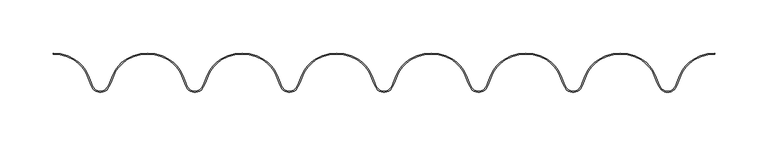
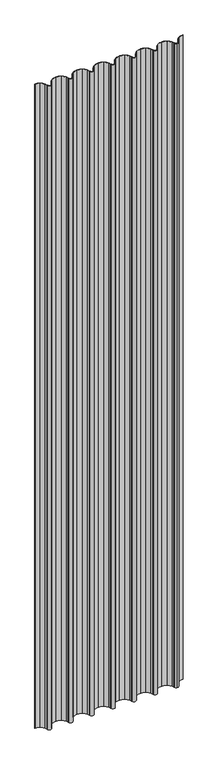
"""IFC4 building model written with IfcOpenShell, lengths in millimetres: plate geometry, Regolare Vertical 623 : Regolare Vertical 623."""

from ifc_helpers import new_model, si_unit, point, frame_2d, origin, origin_with_axes, place, context, project, spatial, polyline, circle_curve, trimmed, segment, composite_curve, outline, extrude, source, transform, mapped, element, save


def plate_9b340332(model_context):
    return source(origin(), model_context, "Body", "SweptSolid", [
        extrude(outline(composite_curve([segment(trimmed(circle_curve(frame_2d((308.1145665, -32.6206681)), 30.6166783), [point((292.1394616, -6.5021495))], [point((279.6874767, -21.2504634))], True, "CARTESIAN"), True, "CONTINUOUS"), segment(polyline([(279.6874767, -21.2504634), (276.8058908, -28.4448583), (275.1452661, -31.9093405)]), True, "CONTINUOUS"), segment(trimmed(circle_curve(frame_2d((267.1544672, -28.0791236)), 8.8613445), [point((275.1452661, -31.9093405))], [point((267.1544672, -36.9404682))], False, "CARTESIAN"), True, "CONTINUOUS"), segment(trimmed(circle_curve(frame_2d((267.1544672, -28.0791236)), 8.8613445), [point((267.1544672, -36.9404682))], [point((259.1636684, -31.9093405))], False, "CARTESIAN"), True, "CONTINUOUS"), segment(polyline([(259.1636684, -31.9093405), (257.5030437, -28.4448583), (254.6214578, -21.2504634)]), True, "CONTINUOUS"), segment(trimmed(circle_curve(frame_2d((226.1943679, -32.6206681)), 30.6166783), [point((254.6214578, -21.2504634))], [point((242.1694728, -6.5021495))], True, "CARTESIAN"), True, "CONTINUOUS"), segment(trimmed(circle_curve(frame_2d((222.6287227, -38.4503244)), 37.4503244), [point((242.1694728, -6.5021495))], [point((222.6287227, -1.0))], True, "CARTESIAN"), True, "CONTINUOUS"), segment(trimmed(circle_curve(frame_2d((222.6287227, -38.4503244)), 37.4503244), [point((222.6287227, -1.0))], [point((203.0879726, -6.5021495))], True, "CARTESIAN"), True, "CONTINUOUS"), segment(trimmed(circle_curve(frame_2d((219.0630775, -32.6206681)), 30.6166783), [point((203.0879726, -6.5021495))], [point((190.6359876, -21.2504634))], True, "CARTESIAN"), True, "CONTINUOUS"), segment(polyline([(190.6359876, -21.2504634), (187.7544017, -28.4448583), (186.093777, -31.9093405)]), True, "CONTINUOUS"), segment(trimmed(circle_curve(frame_2d((178.1029782, -28.0791236)), 8.8613445), [point((186.093777, -31.9093405))], [point((170.1121793, -31.9093405))], False, "CARTESIAN"), True, "CONTINUOUS"), segment(polyline([(170.1121793, -31.9093405), (168.4515546, -28.4448583), (165.5699686, -21.2504633)]), True, "CONTINUOUS"), segment(trimmed(circle_curve(frame_2d((137.1428789, -32.6206681)), 30.6166783), [point((165.5699686, -21.2504633))], [point((153.1179838, -6.5021495))], True, "CARTESIAN"), True, "CONTINUOUS"), segment(trimmed(circle_curve(frame_2d((133.5772336, -38.4503244)), 37.4503244), [point((153.1179838, -6.5021495))], [point((133.5772336, -1.0))], True, "CARTESIAN"), True, "CONTINUOUS"), segment(trimmed(circle_curve(frame_2d((133.5772336, -38.4503244)), 37.4503244), [point((133.5772336, -1.0))], [point((114.0364835, -6.5021495))], True, "CARTESIAN"), True, "CONTINUOUS"), segment(trimmed(circle_curve(frame_2d((130.0115884, -32.6206681)), 30.6166783), [point((114.0364835, -6.5021495))], [point((101.5844986, -21.2504633))], True, "CARTESIAN"), True, "CONTINUOUS"), segment(polyline([(101.5844986, -21.2504633), (98.7029126, -28.4448583), (97.0422879, -31.9093405)]), True, "CONTINUOUS"), segment(trimmed(circle_curve(frame_2d((89.0514891, -28.0791236)), 8.8613445), [point((97.0422879, -31.9093405))], [point((81.0606903, -31.9093405))], False, "CARTESIAN"), True, "CONTINUOUS"), segment(polyline([(81.0606903, -31.9093405), (79.4000655, -28.4448583), (76.5184796, -21.2504634)]), True, "CONTINUOUS"), segment(trimmed(circle_curve(frame_2d((48.0913898, -32.6206681)), 30.6166783), [point((76.5184796, -21.2504634))], [point((64.0664947, -6.5021495))], True, "CARTESIAN"), True, "CONTINUOUS"), segment(trimmed(circle_curve(frame_2d((44.5257445, -38.4503244)), 37.4503244), [point((64.0664947, -6.5021495))], [point((44.5257445, -1.0))], True, "CARTESIAN"), True, "CONTINUOUS"), segment(trimmed(circle_curve(frame_2d((44.5257445, -38.4503244)), 37.4503244), [point((44.5257445, -1.0))], [point((24.9849944, -6.5021495))], True, "CARTESIAN"), True, "CONTINUOUS"), segment(trimmed(circle_curve(frame_2d((40.9600993, -32.6206681)), 30.6166783), [point((24.9849944, -6.5021495))], [point((12.5330094, -21.2504636))], True, "CARTESIAN"), True, "CONTINUOUS"), segment(polyline([(12.5330094, -21.2504636), (9.6514235, -28.4448583), (7.9907988, -31.9093405)]), True, "CONTINUOUS"), segment(trimmed(circle_curve(frame_2d((0.0, -28.0791236)), 8.8613445), [point((7.9907988, -31.9093405))], [point((-7.9907988, -31.9093405))], False, "CARTESIAN"), True, "CONTINUOUS"), segment(polyline([(-7.9907988, -31.9093405), (-9.6514235, -28.4448583), (-12.5330095, -21.2504634)]), True, "CONTINUOUS"), segment(trimmed(circle_curve(frame_2d((-40.9600993, -32.6206681)), 30.6166783), [point((-12.5330095, -21.2504634))], [point((-24.9849944, -6.5021495))], True, "CARTESIAN"), True, "CONTINUOUS"), segment(trimmed(circle_curve(frame_2d((-44.5257445, -38.4503244)), 37.4503244), [point((-24.9849944, -6.5021495))], [point((-44.5257445, -1.0))], True, "CARTESIAN"), True, "CONTINUOUS"), segment(trimmed(circle_curve(frame_2d((-44.5257445, -38.4503244)), 37.4503244), [point((-44.5257445, -1.0))], [point((-64.0664947, -6.5021495))], True, "CARTESIAN"), True, "CONTINUOUS"), segment(trimmed(circle_curve(frame_2d((-48.0913898, -32.6206681)), 30.6166783), [point((-64.0664947, -6.5021495))], [point((-76.5184796, -21.2504634))], True, "CARTESIAN"), True, "CONTINUOUS"), segment(polyline([(-76.5184796, -21.2504634), (-79.4000655, -28.4448583), (-81.0606903, -31.9093405)]), True, "CONTINUOUS"), segment(trimmed(circle_curve(frame_2d((-89.0514891, -28.0791236)), 8.8613445), [point((-81.0606903, -31.9093405))], [point((-97.0422879, -31.9093405))], False, "CARTESIAN"), True, "CONTINUOUS"), segment(polyline([(-97.0422879, -31.9093405), (-98.7029126, -28.4448583), (-101.5844985, -21.2504634)]), True, "CONTINUOUS"), segment(trimmed(circle_curve(frame_2d((-130.0115884, -32.6206681)), 30.6166783), [point((-101.5844985, -21.2504634))], [point((-114.0364835, -6.5021495))], True, "CARTESIAN"), True, "CONTINUOUS"), segment(trimmed(circle_curve(frame_2d((-133.5772336, -38.4503244)), 37.4503244), [point((-114.0364835, -6.5021495))], [point((-133.5772336, -1.0))], True, "CARTESIAN"), True, "CONTINUOUS"), segment(trimmed(circle_curve(frame_2d((-133.5772336, -38.4503244)), 37.4503244), [point((-133.5772336, -1.0))], [point((-153.1179838, -6.5021495))], True, "CARTESIAN"), True, "CONTINUOUS"), segment(trimmed(circle_curve(frame_2d((-137.1428789, -32.6206681)), 30.6166783), [point((-153.1179838, -6.5021495))], [point((-165.5699687, -21.2504634))], True, "CARTESIAN"), True, "CONTINUOUS"), segment(polyline([(-165.5699687, -21.2504634), (-168.4515546, -28.4448583), (-170.1121793, -31.9093405)]), True, "CONTINUOUS"), segment(trimmed(circle_curve(frame_2d((-178.1029782, -28.0791236)), 8.8613445), [point((-170.1121793, -31.9093405))], [point((-186.093777, -31.9093405))], False, "CARTESIAN"), True, "CONTINUOUS"), segment(polyline([(-186.093777, -31.9093405), (-187.7544017, -28.4448583), (-190.6359876, -21.2504634)]), True, "CONTINUOUS"), segment(trimmed(circle_curve(frame_2d((-219.0630775, -32.6206681)), 30.6166783), [point((-190.6359876, -21.2504634))], [point((-203.0879726, -6.5021495))], True, "CARTESIAN"), True, "CONTINUOUS"), segment(trimmed(circle_curve(frame_2d((-222.6287227, -38.4503244)), 37.4503244), [point((-203.0879726, -6.5021495))], [point((-222.6287227, -1.0))], True, "CARTESIAN"), True, "CONTINUOUS"), segment(trimmed(circle_curve(frame_2d((-222.6287227, -38.4503244)), 37.4503244), [point((-222.6287227, -1.0))], [point((-242.1694728, -6.5021495))], True, "CARTESIAN"), True, "CONTINUOUS"), segment(trimmed(circle_curve(frame_2d((-226.1943679, -32.6206681)), 30.6166783), [point((-242.1694728, -6.5021495))], [point((-254.6214578, -21.2504634))], True, "CARTESIAN"), True, "CONTINUOUS"), segment(polyline([(-254.6214578, -21.2504634), (-257.5030437, -28.4448583), (-259.1636684, -31.9093405)]), True, "CONTINUOUS"), segment(trimmed(circle_curve(frame_2d((-267.1544672, -28.0791236)), 8.8613445), [point((-259.1636684, -31.9093405))], [point((-275.1452661, -31.9093405))], False, "CARTESIAN"), True, "CONTINUOUS"), segment(polyline([(-275.1452661, -31.9093405), (-276.8058908, -28.4448583), (-279.6874767, -21.2504634)]), True, "CONTINUOUS"), segment(trimmed(circle_curve(frame_2d((-308.1145665, -32.6206681)), 30.6166783), [point((-279.6874767, -21.2504634))], [point((-292.1394616, -6.5021495))], True, "CARTESIAN"), True, "CONTINUOUS"), segment(trimmed(circle_curve(frame_2d((-311.6802118, -38.4503244)), 37.4503244), [point((-292.1394616, -6.5021495))], [point((-311.6802118, -1.0))], True, "CARTESIAN"), True, "CONTINUOUS"), segment(polyline([(-311.6802118, -1.0), (-311.6802118, 0.0)]), True, "CONTINUOUS"), segment(trimmed(circle_curve(frame_2d((-311.6802118, -38.4503244)), 38.4503244), [point((-311.6802118, 0.0))], [point((-291.6176838, -5.6490681))], False, "CARTESIAN"), True, "CONTINUOUS"), segment(trimmed(circle_curve(frame_2d((-308.1145665, -32.6206681)), 31.6166783), [point((-291.6176838, -5.6490681))], [point((-278.7590823, -20.878867))], False, "CARTESIAN"), True, "CONTINUOUS"), segment(polyline([(-278.7590823, -20.878867), (-275.8898606, -28.0423924), (-274.2435069, -31.4771017)]), True, "CONTINUOUS"), segment(trimmed(circle_curve(frame_2d((-267.1544672, -28.0791236)), 7.8613445), [point((-274.2435069, -31.4771017))], [point((-260.0654276, -31.4771017))], True, "CARTESIAN"), True, "CONTINUOUS"), segment(polyline([(-260.0654276, -31.4771017), (-258.4190739, -28.0423924), (-255.5498522, -20.878867)]), True, "CONTINUOUS"), segment(trimmed(circle_curve(frame_2d((-226.1943679, -32.6206681)), 31.6166783), [point((-255.5498522, -20.878867))], [point((-242.6912507, -5.6490681))], False, "CARTESIAN"), True, "CONTINUOUS"), segment(trimmed(circle_curve(frame_2d((-222.6287227, -38.4503244)), 38.4503244), [point((-242.6912507, -5.6490681))], [point((-222.6287227, 0.0))], False, "CARTESIAN"), True, "CONTINUOUS"), segment(trimmed(circle_curve(frame_2d((-222.6287227, -38.4503244)), 38.4503244), [point((-222.6287227, 0.0))], [point((-202.5661947, -5.6490681))], False, "CARTESIAN"), True, "CONTINUOUS"), segment(trimmed(circle_curve(frame_2d((-219.0630775, -32.6206681)), 31.6166783), [point((-202.5661947, -5.6490681))], [point((-189.7075932, -20.878867))], False, "CARTESIAN"), True, "CONTINUOUS"), segment(polyline([(-189.7075932, -20.878867), (-186.8383715, -28.0423924), (-185.1920178, -31.4771017)]), True, "CONTINUOUS"), segment(trimmed(circle_curve(frame_2d((-178.1029782, -28.0791236)), 7.8613445), [point((-185.1920178, -31.4771017))], [point((-171.0139385, -31.4771017))], True, "CARTESIAN"), True, "CONTINUOUS"), segment(polyline([(-171.0139385, -31.4771017), (-169.3675848, -28.0423924), (-166.4983631, -20.878867)]), True, "CONTINUOUS"), segment(trimmed(circle_curve(frame_2d((-137.1428789, -32.6206681)), 31.6166783), [point((-166.4983631, -20.878867))], [point((-153.6397616, -5.6490681))], False, "CARTESIAN"), True, "CONTINUOUS"), segment(trimmed(circle_curve(frame_2d((-133.5772336, -38.4503244)), 38.4503244), [point((-153.6397616, -5.6490681))], [point((-133.5772336, 0.0))], False, "CARTESIAN"), True, "CONTINUOUS"), segment(trimmed(circle_curve(frame_2d((-133.5772336, -38.4503244)), 38.4503244), [point((-133.5772336, 0.0))], [point((-113.5147056, -5.6490681))], False, "CARTESIAN"), True, "CONTINUOUS"), segment(trimmed(circle_curve(frame_2d((-130.0115884, -32.6206681)), 31.6166783), [point((-113.5147056, -5.6490681))], [point((-100.6561042, -20.878867))], False, "CARTESIAN"), True, "CONTINUOUS"), segment(polyline([(-100.6561042, -20.878867), (-97.7868824, -28.0423924), (-96.1405287, -31.4771017)]), True, "CONTINUOUS"), segment(trimmed(circle_curve(frame_2d((-89.0514891, -28.0791236)), 7.8613445), [point((-96.1405287, -31.4771017))], [point((-81.9624494, -31.4771017))], True, "CARTESIAN"), True, "CONTINUOUS"), segment(polyline([(-81.9624494, -31.4771017), (-80.3160957, -28.0423924), (-77.446874, -20.878867)]), True, "CONTINUOUS"), segment(trimmed(circle_curve(frame_2d((-48.0913898, -32.6206681)), 31.6166783), [point((-77.446874, -20.878867))], [point((-64.5882725, -5.6490681))], False, "CARTESIAN"), True, "CONTINUOUS"), segment(trimmed(circle_curve(frame_2d((-44.5257445, -38.4503244)), 38.4503244), [point((-64.5882725, -5.6490681))], [point((-44.5257445, 0.0))], False, "CARTESIAN"), True, "CONTINUOUS"), segment(trimmed(circle_curve(frame_2d((-44.5257445, -38.4503244)), 38.4503244), [point((-44.5257445, 0.0))], [point((-24.4632165, -5.6490681))], False, "CARTESIAN"), True, "CONTINUOUS"), segment(trimmed(circle_curve(frame_2d((-40.9600993, -32.6206681)), 31.6166783), [point((-24.4632165, -5.6490681))], [point((-11.6046151, -20.878867))], False, "CARTESIAN"), True, "CONTINUOUS"), segment(polyline([(-11.6046151, -20.878867), (-8.7353934, -28.0423924), (-7.0890396, -31.4771017)]), True, "CONTINUOUS"), segment(trimmed(circle_curve(frame_2d((0.0, -28.0791236)), 7.8613445), [point((-7.0890396, -31.4771017))], [point((7.0890396, -31.4771017))], True, "CARTESIAN"), True, "CONTINUOUS"), segment(polyline([(7.0890396, -31.4771017), (8.7353934, -28.0423924), (11.604615, -20.8788672)]), True, "CONTINUOUS"), segment(trimmed(circle_curve(frame_2d((40.9600993, -32.6206681)), 31.6166783), [point((11.604615, -20.8788672))], [point((24.4632165, -5.6490681))], False, "CARTESIAN"), True, "CONTINUOUS"), segment(trimmed(circle_curve(frame_2d((44.5257445, -38.4503244)), 38.4503244), [point((24.4632165, -5.6490681))], [point((44.5257445, 0.0))], False, "CARTESIAN"), True, "CONTINUOUS"), segment(trimmed(circle_curve(frame_2d((44.5257445, -38.4503244)), 38.4503244), [point((44.5257445, 0.0))], [point((64.5882725, -5.6490681))], False, "CARTESIAN"), True, "CONTINUOUS"), segment(trimmed(circle_curve(frame_2d((48.0913898, -32.6206681)), 31.6166783), [point((64.5882725, -5.6490681))], [point((77.446874, -20.878867))], False, "CARTESIAN"), True, "CONTINUOUS"), segment(polyline([(77.446874, -20.878867), (80.3160957, -28.0423924), (81.9624494, -31.4771017)]), True, "CONTINUOUS"), segment(trimmed(circle_curve(frame_2d((89.0514891, -28.0791236)), 7.8613445), [point((81.9624494, -31.4771017))], [point((96.1405287, -31.4771017))], True, "CARTESIAN"), True, "CONTINUOUS"), segment(polyline([(96.1405287, -31.4771017), (97.7868824, -28.0423924), (100.6561042, -20.8788668)]), True, "CONTINUOUS"), segment(trimmed(circle_curve(frame_2d((130.0115884, -32.6206681)), 31.6166783), [point((100.6561042, -20.8788668))], [point((113.5147056, -5.6490681))], False, "CARTESIAN"), True, "CONTINUOUS"), segment(trimmed(circle_curve(frame_2d((133.5772336, -38.4503244)), 38.4503244), [point((113.5147056, -5.6490681))], [point((133.5772336, 0.0))], False, "CARTESIAN"), True, "CONTINUOUS"), segment(trimmed(circle_curve(frame_2d((133.5772336, -38.4503244)), 38.4503244), [point((133.5772336, 0.0))], [point((153.6397616, -5.6490681))], False, "CARTESIAN"), True, "CONTINUOUS"), segment(trimmed(circle_curve(frame_2d((137.1428789, -32.6206681)), 31.6166783), [point((153.6397616, -5.6490681))], [point((166.498363, -20.8788668))], False, "CARTESIAN"), True, "CONTINUOUS"), segment(polyline([(166.498363, -20.8788668), (169.3675848, -28.0423924), (171.0139385, -31.4771017)]), True, "CONTINUOUS"), segment(trimmed(circle_curve(frame_2d((178.1029782, -28.0791236)), 7.8613445), [point((171.0139385, -31.4771017))], [point((185.1920178, -31.4771017))], True, "CARTESIAN"), True, "CONTINUOUS"), segment(polyline([(185.1920178, -31.4771017), (186.8383715, -28.0423924), (189.7075932, -20.878867)]), True, "CONTINUOUS"), segment(trimmed(circle_curve(frame_2d((219.0630775, -32.6206681)), 31.6166783), [point((189.7075932, -20.878867))], [point((202.5661947, -5.6490681))], False, "CARTESIAN"), True, "CONTINUOUS"), segment(trimmed(circle_curve(frame_2d((222.6287227, -38.4503244)), 38.4503244), [point((202.5661947, -5.6490681))], [point((222.6287227, 0.0))], False, "CARTESIAN"), True, "CONTINUOUS"), segment(trimmed(circle_curve(frame_2d((222.6287227, -38.4503244)), 38.4503244), [point((222.6287227, 0.0))], [point((242.6912507, -5.6490681))], False, "CARTESIAN"), True, "CONTINUOUS"), segment(trimmed(circle_curve(frame_2d((226.1943679, -32.6206681)), 31.6166783), [point((242.6912507, -5.6490681))], [point((255.5498522, -20.878867))], False, "CARTESIAN"), True, "CONTINUOUS"), segment(polyline([(255.5498522, -20.878867), (258.4190739, -28.0423924), (260.0654276, -31.4771017)]), True, "CONTINUOUS"), segment(trimmed(circle_curve(frame_2d((267.1544672, -28.0791236)), 7.8613445), [point((260.0654276, -31.4771017))], [point((267.1544672, -35.9404682))], True, "CARTESIAN"), True, "CONTINUOUS"), segment(trimmed(circle_curve(frame_2d((267.1544672, -28.0791236)), 7.8613445), [point((267.1544672, -35.9404682))], [point((274.2435069, -31.4771017))], True, "CARTESIAN"), True, "CONTINUOUS"), segment(polyline([(274.2435069, -31.4771017), (275.8898606, -28.0423924), (278.7590823, -20.878867)]), True, "CONTINUOUS"), segment(trimmed(circle_curve(frame_2d((308.1145665, -32.6206681)), 31.6166783), [point((278.7590823, -20.878867))], [point((291.6176838, -5.6490681))], False, "CARTESIAN"), True, "CONTINUOUS"), segment(trimmed(circle_curve(frame_2d((311.6802118, -38.4503244)), 38.4503244), [point((291.6176838, -5.6490681))], [point((311.6802118, 0.0))], False, "CARTESIAN"), True, "CONTINUOUS"), segment(polyline([(311.6802118, 0.0), (311.6802118, -1.0)]), True, "CONTINUOUS"), segment(trimmed(circle_curve(frame_2d((311.6802118, -38.4503244)), 37.4503244), [point((311.6802118, -1.0))], [point((292.1394616, -6.5021495))], True, "CARTESIAN"), True, "CONTINUOUS")], self_intersect=False)), origin_with_axes(), (0.0, 0.0, 1.0), 2859.2009216),
    ])


if __name__ == "__main__":
    model = new_model("IFC4")
    model_context = context("Model", 3, world=origin())
    ifc_project = project(units=[si_unit("LENGTHUNIT", "METRE", prefix="MILLI")], contexts=[model_context])
    site = spatial("IfcSite", under=ifc_project)
    building = spatial("IfcBuilding", under=site)
    placement = place(None, origin())
    plate_shape = plate_9b340332(model_context)
    element("IfcPlate", 1, ObjectType="Regolare Vertical 623 : Regolare Vertical 623", at=placement, inside=building, context=model_context, shape_type="MappedRepresentation", body=[
        mapped(plate_shape, transform((0.0, 0.0, 0.0), x_axis=(1.0, 0.0, 0.0), y_axis=(0.0, 1.0, 0.0), z_axis=(0.0, 0.0, 1.0))),
    ])
    save(model, "model.ifc")
